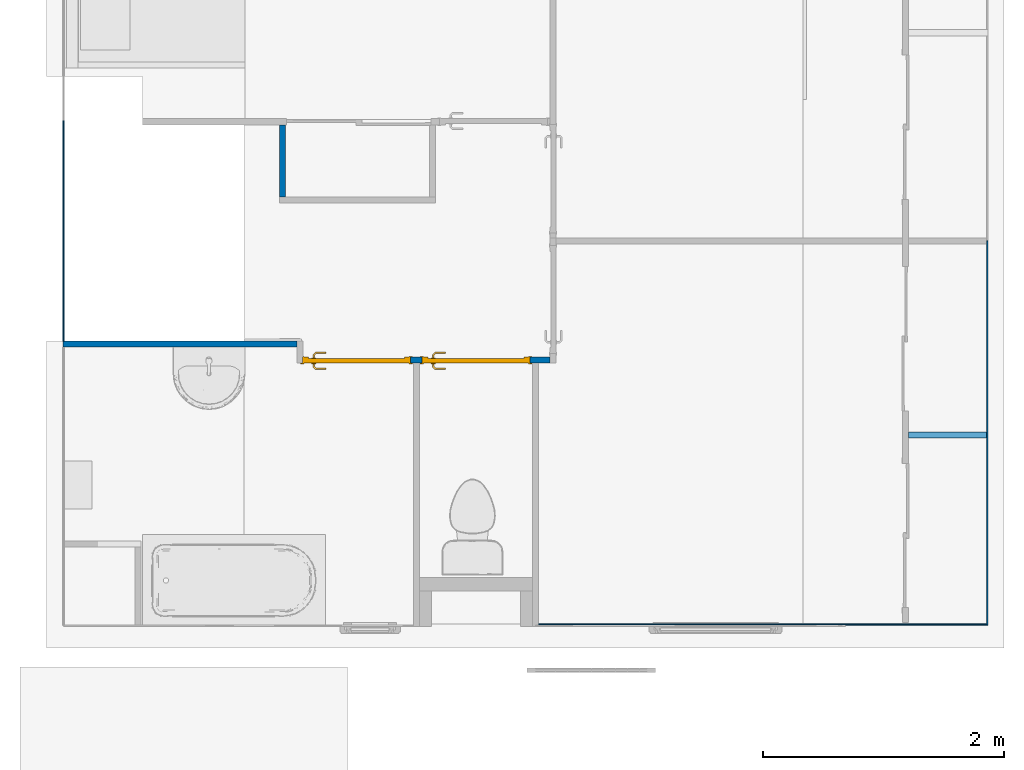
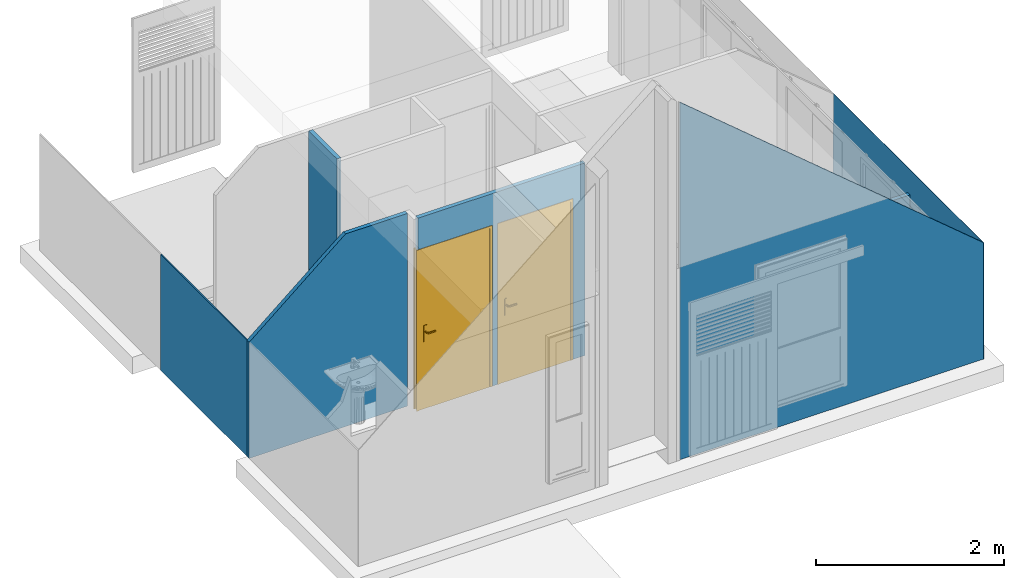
# One storey, part 2 of 11: 7 walls, 2 doors, 3 openings.
"""IFC2X3 building model written with IfcOpenShell, lengths in metres."""

import ifcopenshell
import ifcopenshell.guid

model = None  # the IFC model being written
_history = None  # IfcOwnerHistory: only IFC2X3 demands one
_inside = {}  # id of a spatial element -> (the spatial element, [elements in it])
_under = {}  # id of a project, library or spatial element -> (it, [spatial elements below it])
_declared = {}  # id of a project -> (the project, [libraries it declares])
_typed = {}  # id of a type object -> (the type object, [elements of that type])
_made_of = {}  # id of a material, layer set ... -> (it, [elements and type objects made of it])


def new_model(schema):
    """Start an empty IFC model of exactly this schema.

    Asked for "IFC4X3", IfcOpenShell would pick the latest addendum, in which some entities
    have other attributes; the version numbers below select the first issue.
    IFC2X3 requires an IfcOwnerHistory on every rooted entity: one is made here for all.
    """
    global model, _history
    if schema == "IFC4X3":
        model = ifcopenshell.file(schema_version=(4, 3, 0, 0))
    else:
        model = ifcopenshell.file(schema=schema)
    _inside.clear()
    _under.clear()
    _declared.clear()
    _typed.clear()
    _made_of.clear()
    _history = None
    if model.schema == "IFC2X3":
        org = make("IfcOrganization", Name="unknown")
        user = make(
            "IfcPersonAndOrganization",
            ThePerson=make("IfcPerson", FamilyName="unknown"),
            TheOrganization=org,
        )
        app = make(
            "IfcApplication",
            ApplicationDeveloper=org,
            Version="unknown",
            ApplicationFullName="unknown",
            ApplicationIdentifier="unknown",
        )
        _history = make(
            "IfcOwnerHistory",
            OwningUser=user,
            OwningApplication=app,
            ChangeAction="ADDED",
            CreationDate=0,
        )
    return model


def make(cls, **values):
    """One entity of the class cls with the attributes given. An attribute that is None is left unset."""
    return model.create_entity(
        cls, **{name: value for name, value in values.items() if value is not None}
    )


def entity(cls, *values):
    """Any entity or typed value of the class cls, its attributes in the order of the schema. None: left unset."""
    e = model.create_entity(cls)
    for i, value in enumerate(values):
        if value is not None:
            e[i] = value
    return e


def rooted(cls, **values):
    """An entity with a GlobalId (a new one), such as an element, a storey or a relation."""
    return make(cls, GlobalId=ifcopenshell.guid.new(), OwnerHistory=_history, **values)


def si_unit(unit_type, name, prefix=None):
    """IfcSIUnit, for example si_unit("LENGTHUNIT", "METRE", prefix="MILLI")."""
    return make("IfcSIUnit", UnitType=unit_type, Prefix=prefix, Name=name)


def converted_unit(unit_type, name, factor, base, dimensions=None, offset=None):
    """IfcConversionBasedUnit, such as the inch: factor (a typed value) times the base unit."""
    return make(
        "IfcConversionBasedUnit"
        if offset is None
        else "IfcConversionBasedUnitWithOffset",
        ConversionOffset=offset,
        Dimensions=None
        if dimensions is None
        else entity("IfcDimensionalExponents", *dimensions),
        UnitType=unit_type,
        Name=name,
        ConversionFactor=make(
            "IfcMeasureWithUnit", ValueComponent=factor, UnitComponent=base
        ),
    )


def derived_unit(unit_type, elements):
    """IfcDerivedUnit: a product of units, each with its exponent."""
    return make(
        "IfcDerivedUnit",
        Elements=[
            make("IfcDerivedUnitElement", Unit=unit, Exponent=power)
            for unit, power in elements
        ],
        UnitType=unit_type,
    )


def assignment(units):
    """IfcUnitAssignment: the units of a project."""
    return None if units is None else make("IfcUnitAssignment", Units=units)


def point(xyz):
    """IfcCartesianPoint."""
    return None if xyz is None else make("IfcCartesianPoint", Coordinates=xyz)


def direction(xyz):
    """IfcDirection."""
    return None if xyz is None else make("IfcDirection", DirectionRatios=xyz)


def frame(location, z_axis=None, x_axis=None):
    """IfcAxis2Placement3D, a coordinate frame: its origin and axes. An axis left out is left unset."""
    return make(
        "IfcAxis2Placement3D",
        Location=point(location),
        Axis=direction(z_axis),
        RefDirection=direction(x_axis),
    )


def frame_2d(location, x_axis=None):
    """IfcAxis2Placement2D, a coordinate frame in the plane: its origin and x axis."""
    return make(
        "IfcAxis2Placement2D", Location=point(location), RefDirection=direction(x_axis)
    )


def origin():
    """The frame at (0, 0, 0) with its axes left unset."""
    return frame((0.0, 0.0, 0.0))


def place(relative_to, where):
    """IfcLocalPlacement: puts the frame where relative to a parent placement (None: the world)."""
    return make(
        "IfcLocalPlacement", PlacementRelTo=relative_to, RelativePlacement=where
    )


def context(
    kind, dimensions, precision=None, world=None, true_north=None, identifier=None
):
    """IfcGeometricRepresentationContext, for example the 3D "Model" context."""
    return make(
        "IfcGeometricRepresentationContext",
        ContextIdentifier=identifier,
        ContextType=kind,
        CoordinateSpaceDimension=dimensions,
        Precision=precision,
        WorldCoordinateSystem=world,
        TrueNorth=true_north,
    )


def subcontext(parent, identifier, kind, view, scale=None):
    """IfcGeometricRepresentationSubContext, for example "Body" below "Model"."""
    return make(
        "IfcGeometricRepresentationSubContext",
        ContextIdentifier=identifier,
        ContextType=kind,
        ParentContext=parent,
        TargetScale=scale,
        TargetView=view,
    )


def project(units=None, contexts=None):
    """IfcProject with its units and contexts."""
    return rooted(
        "IfcProject",
        Name="project",
        RepresentationContexts=contexts,
        UnitsInContext=assignment(units),
    )


def spatial(cls, under=None, at=None, **own):
    """A site, building, storey or space (cls), placed at a placement, below another one or the project."""
    s = rooted(cls, ObjectPlacement=at, **own)
    if under is not None:
        _under.setdefault(under.id(), (under, []))[1].append(s)
    return s


def polyline(points):
    """IfcPolyline through the points."""
    return make("IfcPolyline", Points=[point(p) for p in points])


def profile(cls, at=None, kind="AREA", **sizes):
    """A parametric profile (cls). Its sizes go by their IFC names, for example OverallWidth=200.0."""
    return make(cls, ProfileType=kind, Position=at, **sizes)


def rectangle(**sizes):
    """IfcRectangleProfileDef."""
    return profile("IfcRectangleProfileDef", **sizes)


def extrude(swept, where, along, depth):
    """IfcExtrudedAreaSolid: the profile swept, set in the frame where, extruded along a direction by depth."""
    return make(
        "IfcExtrudedAreaSolid",
        SweptArea=swept,
        Position=where,
        ExtrudedDirection=direction(along),
        Depth=depth,
    )


def clip(a, b, op="DIFFERENCE"):
    """IfcBooleanClippingResult: the solid a cut by the half space b."""
    return make(
        "IfcBooleanClippingResult", Operator=op, FirstOperand=a, SecondOperand=b
    )


def halfspace(plane, agree):
    """IfcHalfSpaceSolid: all space on one side of the plane z = 0 of the frame plane."""
    return make(
        "IfcHalfSpaceSolid",
        BaseSurface=make("IfcPlane", Position=plane),
        AgreementFlag=agree,
    )


def bounded_halfspace(plane, agree, where, boundary):
    """IfcPolygonalBoundedHalfSpace: a half space limited to a polygon's prism."""
    return make(
        "IfcPolygonalBoundedHalfSpace",
        BaseSurface=make("IfcPlane", Position=plane),
        AgreementFlag=agree,
        Position=where,
        PolygonalBoundary=boundary,
    )


def faces_of(points, faces, orient=None, outer=None):
    """IfcFace entities. A face is a list of loops; a loop is a list of indices into points, from 0.

    orient and outer hold one flag for each loop. By default every Orientation is true, the
    first loop of a face is its IfcFaceOuterBound and the others are IfcFaceBound.
    """
    made = []
    for i, loops in enumerate(faces):
        bounds = []
        for j, loop in enumerate(loops):
            is_outer = j == 0 if outer is None else outer[i][j]
            bounds.append(
                make(
                    "IfcFaceOuterBound" if is_outer else "IfcFaceBound",
                    Bound=make("IfcPolyLoop", Polygon=[points[k] for k in loop]),
                    Orientation=True if orient is None else orient[i][j],
                )
            )
        made.append(make("IfcFace", Bounds=bounds))
    return made


def faceted_brep(points, faces, orient=None, outer=None, voids=None):
    """IfcFacetedBrep: a solid bounded by flat faces; with voids (closed shells), ...WithVoids."""
    shared = [point(p) for p in points]
    hull = make("IfcClosedShell", CfsFaces=faces_of(shared, faces, orient, outer))
    if voids is None:
        return make("IfcFacetedBrep", Outer=hull)
    return make(
        "IfcFacetedBrepWithVoids",
        Outer=hull,
        Voids=[
            make(cls, CfsFaces=faces_of(shared, fs, o, b)) for cls, fs, o, b in voids
        ],
    )


def shape(context_of_items, identifier, shape_type, items):
    """IfcShapeRepresentation: the items that make up one representation, for example the "Body"."""
    return make(
        "IfcShapeRepresentation",
        ContextOfItems=context_of_items,
        RepresentationIdentifier=identifier,
        RepresentationType=shape_type,
        Items=items,
    )


def source(mapping_origin, context_of_items, identifier, shape_type, items):
    """IfcRepresentationMap: a shape defined once, which mapped items show again and again."""
    return make(
        "IfcRepresentationMap",
        MappingOrigin=mapping_origin,
        MappedRepresentation=shape(context_of_items, identifier, shape_type, items),
    )


def transform(
    local_origin,
    x_axis=None,
    y_axis=None,
    z_axis=None,
    scale=None,
    scale2=None,
    scale3=None,
    uniform=True,
):
    """IfcCartesianTransformationOperator3D, or its non-uniform kind. x_axis, y_axis, z_axis: its Axis1, 2, 3."""
    if uniform:
        return make(
            "IfcCartesianTransformationOperator3D",
            Axis1=direction(x_axis),
            Axis2=direction(y_axis),
            LocalOrigin=point(local_origin),
            Scale=scale,
            Axis3=direction(z_axis),
        )
    return make(
        "IfcCartesianTransformationOperator3DnonUniform",
        Axis1=direction(x_axis),
        Axis2=direction(y_axis),
        LocalOrigin=point(local_origin),
        Scale=scale,
        Axis3=direction(z_axis),
        Scale2=scale2,
        Scale3=scale3,
    )


def mapped(mapping_source, mapping_target):
    """IfcMappedItem: shows the shape of a source again, moved by a transform."""
    return make(
        "IfcMappedItem", MappingSource=mapping_source, MappingTarget=mapping_target
    )


def material(Name=None, Category=None):
    """IfcMaterial."""
    return make("IfcMaterial", Name=Name, Category=Category)


def material_list(materials):
    """IfcMaterialList."""
    return make("IfcMaterialList", Materials=materials)


def layer(
    of_material, thickness, ventilated=None, Name=None, Category=None, Priority=None
):
    """IfcMaterialLayer: one layer of a wall or slab, of a material (None: an air gap)."""
    return make(
        "IfcMaterialLayer",
        Material=of_material,
        LayerThickness=thickness,
        IsVentilated=ventilated,
        Name=Name,
        Category=Category,
        Priority=Priority,
    )


def layer_set(layers, Name=None):
    """IfcMaterialLayerSet."""
    return make("IfcMaterialLayerSet", MaterialLayers=layers, LayerSetName=Name)


def layer_usage(for_layer_set, set_direction, sense, offset, extent=None):
    """IfcMaterialLayerSetUsage: how a layer set lies in its element."""
    return make(
        "IfcMaterialLayerSetUsage",
        ForLayerSet=for_layer_set,
        LayerSetDirection=set_direction,
        DirectionSense=sense,
        OffsetFromReferenceLine=offset,
        ReferenceExtent=extent,
    )


def made_of(thing, what):
    """Note that an element or type object is made of a material, layer set ...; save() writes the relation."""
    if what is not None:
        _made_of.setdefault(what.id(), (what, []))[1].append(thing)
    return thing


def type_object(cls, material=None, **own):
    """A type object (cls), such as IfcWallType, which elements share."""
    return made_of(rooted(cls, **own), material)


def type_shapes(of_type, sources):
    """Give a type object the sources (RepresentationMaps) that its elements show as mapped items."""
    of_type.RepresentationMaps = sources


def element(
    cls,
    number,
    at=None,
    inside=None,
    cuts=None,
    type_object=None,
    material=None,
    context=None,
    identifier="Body",
    shape_type=None,
    held_by="IfcProductDefinitionShape",
    body=None,
    shapes=None,
    **own,
):
    """One element of the class cls, such as IfcWall. Its Tag is "e" and its number.

    at: its placement. inside: the storey or other place that contains it. cuts: it is an
    opening in that element (IfcRelVoidsElement). A single representation is given by context,
    identifier, shape_type and body (its items); several are given by shapes. held_by: the class
    of the entity that holds the representations. save() writes the other relations.
    """
    e = rooted(cls, Tag="e%d" % number, ObjectPlacement=at, **own)
    if body is not None:
        shapes = [shape(context, identifier, shape_type, body)]
    if shapes is not None:
        e.Representation = make(held_by, Representations=shapes)
    if inside is not None:
        _inside.setdefault(inside.id(), (inside, []))[1].append(e)
    if cuts is not None:
        rooted(
            "IfcRelVoidsElement", RelatingBuildingElement=cuts, RelatedOpeningElement=e
        )
    if type_object is not None:
        _typed.setdefault(type_object.id(), (type_object, []))[1].append(e)
    return made_of(e, material)


def fill(opening, filler):
    """IfcRelFillsElement: the door or window that sits in an opening."""
    return rooted(
        "IfcRelFillsElement",
        RelatingOpeningElement=opening,
        RelatedBuildingElement=filler,
    )


def aggregate(whole, parts):
    """IfcRelAggregates: a whole, such as a stair, and the parts it consists of."""
    return rooted("IfcRelAggregates", RelatingObject=whole, RelatedObjects=parts)


def save(model, path):
    """Write the relations noted so far, then the file.

    IfcRelAggregates (storeys below a building ...), IfcRelContainedInSpatialStructure (elements
    in a storey), IfcRelDefinesByType, IfcRelAssociatesMaterial and IfcRelDeclares: one each for
    every whole, place, type object, material and project.
    """
    for whole, parts in _under.values():
        aggregate(whole, parts)
    for where, things in _inside.values():
        rooted(
            "IfcRelContainedInSpatialStructure",
            RelatedElements=things,
            RelatingStructure=where,
        )
    for kind, things in _typed.values():
        rooted("IfcRelDefinesByType", RelatedObjects=things, RelatingType=kind)
    for what, things in _made_of.values():
        rooted("IfcRelAssociatesMaterial", RelatedObjects=things, RelatingMaterial=what)
    for by, libraries in _declared.values():
        rooted("IfcRelDeclares", RelatingContext=by, RelatedDefinitions=libraries)
    model.write(path)


model = new_model("IFC2X3")

# Units and contexts
model_context = context("Model", 3, precision=1e-05, world=origin(), true_north=direction((6.12303176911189e-17, 1.0)))
body_context = subcontext(model_context, "Body", "Model", "MODEL_VIEW")
ifc_project = project(units=[si_unit("LENGTHUNIT", "METRE"), si_unit("AREAUNIT", "SQUARE_METRE"), si_unit("VOLUMEUNIT", "CUBIC_METRE"), converted_unit("PLANEANGLEUNIT", "DEGREE", entity("IfcRatioMeasure", 0.0174532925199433), si_unit("PLANEANGLEUNIT", "RADIAN"), dimensions=[0, 0, 0, 0, 0, 0, 0]), si_unit("MASSUNIT", "GRAM", prefix="KILO"), derived_unit("MASSDENSITYUNIT", [(si_unit("MASSUNIT", "GRAM", prefix="KILO"), 1), (si_unit("LENGTHUNIT", "METRE"), -3)]), derived_unit("MOMENTOFINERTIAUNIT", [(si_unit("LENGTHUNIT", "METRE"), 4)]), si_unit("TIMEUNIT", "SECOND"), si_unit("FREQUENCYUNIT", "HERTZ"), si_unit("THERMODYNAMICTEMPERATUREUNIT", "DEGREE_CELSIUS"), derived_unit("THERMALTRANSMITTANCEUNIT", [(si_unit("MASSUNIT", "GRAM", prefix="KILO"), 1), (si_unit("THERMODYNAMICTEMPERATUREUNIT", "KELVIN"), -1), (si_unit("TIMEUNIT", "SECOND"), -3)]), derived_unit("VOLUMETRICFLOWRATEUNIT", [(si_unit("LENGTHUNIT", "METRE"), 3), (si_unit("TIMEUNIT", "SECOND"), -1)]), si_unit("ELECTRICCURRENTUNIT", "AMPERE"), si_unit("ELECTRICVOLTAGEUNIT", "VOLT"), si_unit("POWERUNIT", "WATT"), si_unit("FORCEUNIT", "NEWTON", prefix="KILO"), si_unit("ILLUMINANCEUNIT", "LUX"), si_unit("LUMINOUSFLUXUNIT", "LUMEN"), si_unit("LUMINOUSINTENSITYUNIT", "CANDELA"), derived_unit("USERDEFINED", [(si_unit("MASSUNIT", "GRAM", prefix="KILO"), -1), (si_unit("LENGTHUNIT", "METRE"), -2), (si_unit("TIMEUNIT", "SECOND"), 3), (si_unit("LUMINOUSFLUXUNIT", "LUMEN"), 1)]), derived_unit("LINEARVELOCITYUNIT", [(si_unit("LENGTHUNIT", "METRE"), 1), (si_unit("TIMEUNIT", "SECOND"), -1)]), si_unit("PRESSUREUNIT", "PASCAL"), derived_unit("USERDEFINED", [(si_unit("LENGTHUNIT", "METRE"), -2), (si_unit("MASSUNIT", "GRAM", prefix="KILO"), 1), (si_unit("TIMEUNIT", "SECOND"), -2)]), derived_unit("LINEARFORCEUNIT", [(si_unit("MASSUNIT", "GRAM", prefix="KILO"), 1), (si_unit("LENGTHUNIT", "METRE"), 1), (si_unit("TIMEUNIT", "SECOND"), -2), (si_unit("LENGTHUNIT", "METRE"), -1)]), derived_unit("PLANARFORCEUNIT", [(si_unit("MASSUNIT", "GRAM", prefix="KILO"), 1), (si_unit("LENGTHUNIT", "METRE"), 1), (si_unit("TIMEUNIT", "SECOND"), -2), (si_unit("LENGTHUNIT", "METRE"), -2)])], contexts=[model_context])

# Site, building, storey
site_placement = place(None, origin())
site = spatial("IfcSite", under=ifc_project, at=site_placement, Name="Surface", CompositionType="ELEMENT")
building_placement = place(site_placement, origin())
building = spatial("IfcBuilding", under=site, at=building_placement, CompositionType="ELEMENT")
storey_placement = place(building_placement, frame((0.0, 0.0, 2.72)))
storey = spatial("IfcBuildingStorey", under=building, at=storey_placement, Name="02 ETG", CompositionType="ELEMENT", Elevation=2.72)

# Wall
ifc_material_1 = material(Name="Mur par défaut")
ifc_layer_1 = layer(ifc_material_1, 0.05)
ifc_layer_set_1 = layer_set([ifc_layer_1], Name="Mur de base:Int. Plâtre 50 mm")
ifc_layer_usage_1 = layer_usage(ifc_layer_set_1, "AXIS2", "NEGATIVE", 0.025)
wall_type_1 = type_object("IfcWallType", Name="Mur de base:Int. Plâtre 50 mm", PredefinedType="STANDARD", material=ifc_layer_set_1)
wall_1_placement = place(storey_placement, frame((12.7665615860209, -1.74596095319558, 0.0)))
element("IfcWallStandardCase", 1, at=wall_1_placement, inside=storey, type_object=wall_type_1, material=ifc_layer_usage_1, Name="Mur de base:Int. Plâtre 50 mm", ObjectType="Mur de base:Int. Plâtre 50 mm", context=body_context, shape_type="SweptSolid", body=[
    extrude(rectangle(XDim=0.659999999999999, YDim=0.05, at=frame_2d((0.33, -5.72458747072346e-17), x_axis=(-1.0, 0.0))), origin(), (0.0, 0.0, 1.0), 1.19),
])

# Wall, opening
ifc_layer_2 = layer(ifc_material_1, 0.05)
ifc_layer_set_2 = layer_set([ifc_layer_2], Name="Mur de base:cloison séche - B.A10")
ifc_layer_usage_2 = layer_usage(ifc_layer_set_2, "AXIS2", "NEGATIVE", 0.025)
wall_type_2 = type_object("IfcWallType", Name="Mur de base:cloison séche - B.A10", PredefinedType="STANDARD", material=ifc_layer_set_2)
wall_2_placement = place(storey_placement, frame((7.56156158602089, 0.234039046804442, 0.0), z_axis=(0.0, 0.0, 1.0), x_axis=(0.0, 1.0, 0.0)))
wall_2 = element("IfcWallStandardCase", 2, at=wall_2_placement, inside=storey, type_object=wall_type_2, material=ifc_layer_usage_2, Name="Mur de base:cloison séche - B.A10", ObjectType="Mur de base:cloison séche - B.A10", context=body_context, shape_type="Clipping", body=[
    clip(extrude(rectangle(XDim=0.6, YDim=0.0499999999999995, at=frame_2d((0.3, -7.80625564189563e-17), x_axis=(-1.0, 0.0))), origin(), (0.0, 0.0, 1.0), 2.5), bounded_halfspace(frame((0.0, -0.0249999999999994, 2.5), z_axis=(0.0, 0.0, -1.0), x_axis=(0.0, -1.0, 0.0)), True, frame((0.0, -0.0249999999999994, 2.5)), polyline([(0.0, 0.0), (0.6, 0.0), (0.6, 0.0499999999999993), (0.0, 0.0499999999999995), (0.0, 0.0)]))),
])
opening_1_placement = place(wall_2_placement, origin())
element("IfcOpeningElement", 3, at=opening_1_placement, cuts=wall_2, Name="Mur de base:cloison séche - B.A10", ObjectType="Opening", context=body_context, shape_type="SweptSolid", body=[
    extrude(rectangle(XDim=1.97999999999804, YDim=0.05, at=frame_2d((0.0, 0.0), x_axis=(0.0, 1.0))), frame((0.624999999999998, -1.235, 0.989999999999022), z_axis=(0.0, 1.0, 0.0), x_axis=(-1.0, 0.0, 0.0)), (0.0, 0.0, 1.0), 1.2),
])

# Wall
ifc_layer_usage_3 = layer_usage(ifc_layer_set_2, "AXIS2", "NEGATIVE", 0.025)
wall_3_placement = place(storey_placement, frame((7.68406158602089, -0.990960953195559, 0.0), z_axis=(0.0, 0.0, 1.0), x_axis=(-1.0, 0.0, 0.0)))
element("IfcWallStandardCase", 4, at=wall_3_placement, inside=storey, type_object=wall_type_2, material=ifc_layer_usage_3, Name="Mur de base:cloison séche - B.A10", ObjectType="Mur de base:cloison séche - B.A10", context=body_context, shape_type="Clipping", body=[
    clip(clip(extrude(rectangle(XDim=1.9475, YDim=0.05, at=frame_2d((0.973750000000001, 2.77555756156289e-17), x_axis=(-1.0, 0.0))), origin(), (0.0, 0.0, 1.0), 2.5), halfspace(frame((0.0, -0.025, 2.5), z_axis=(0.0, 0.0, 1.0), x_axis=(0.0, 1.0, 0.0)), False)), halfspace(frame((0.763560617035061, -0.025, 2.5), z_axis=(0.642787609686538, 0.0, 0.766044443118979), x_axis=(0.0, 1.0, 0.0)), False)),
])

# Wall, openings, doors
ifc_layer_usage_4 = layer_usage(ifc_layer_set_2, "AXIS2", "NEGATIVE", 0.025)
wall_4_placement = place(storey_placement, frame((7.73406158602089, -1.12346095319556, 0.0)))
wall_4 = element("IfcWallStandardCase", 5, at=wall_4_placement, inside=storey, type_object=wall_type_2, material=ifc_layer_usage_4, Name="Mur de base:cloison séche - B.A10", ObjectType="Mur de base:cloison séche - B.A10", context=body_context, shape_type="Clipping", body=[
    clip(extrude(rectangle(XDim=2.0525, YDim=0.05, at=frame_2d((1.02625, 8.67361737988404e-18), x_axis=(-1.0, 0.0))), origin(), (0.0, 0.0, 1.0), 2.5), bounded_halfspace(frame((2.0525, 0.0, 2.5), z_axis=(0.0, 0.0, -1.0), x_axis=(1.0, 0.0, 0.0)), True, frame((2.0525, 0.0, 2.5)), polyline([(0.0, 0.0), (0.0, 0.0249999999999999), (-2.0525, 0.0249999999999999), (-2.0525, 0.0), (0.0, 0.0)]))),
])
opening_2_placement = place(wall_4_placement, frame((0.893750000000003, 0.0249999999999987, 0.0)))
opening_2 = element("IfcOpeningElement", 6, at=opening_2_placement, cuts=wall_4, Name="Int. Simple:Porte pleine parement lisse bois prépeinte:1", ObjectType="Opening", context=body_context, shape_type="SweptSolid", body=[
    extrude(rectangle(XDim=2.075, YDim=0.9, at=frame_2d((1.0375, 0.45), x_axis=(1.0, 0.0))), frame((0.0, 0.0, 0.0), z_axis=(0.0, -1.0, 0.0), x_axis=(0.0, 0.0, 1.0)), (0.0, 0.0, 1.0), 0.05),
])
opening_3_placement = place(wall_4_placement, frame((1.8875, 0.0249999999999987, 0.0)))
opening_3 = element("IfcOpeningElement", 7, at=opening_3_placement, cuts=wall_4, Name="Int. Simple:Porte pleine parement lisse bois prépeinte:1", ObjectType="Opening", context=body_context, shape_type="SweptSolid", body=[
    extrude(rectangle(XDim=2.075, YDim=0.9, at=frame_2d((1.0375, 0.45), x_axis=(1.0, 0.0))), frame((0.0, 0.0, 0.0), z_axis=(0.0, -1.0, 0.0), x_axis=(0.0, 0.0, 1.0)), (0.0, 0.0, 1.0), 0.05),
])
ifc_material_2 = material(Name="Finition Peinture - Blanc satiné")
ifc_material_3 = material(Name="Bois - Panneau de porte")
ifc_material_4 = material(Name="Bois - Cadre de porte")
ifc_material_list_1 = material_list([ifc_material_2, ifc_material_3, ifc_material_4])
ifc_material_list_2 = material_list([ifc_material_2, ifc_material_4, ifc_material_3, ifc_material_4])
door_style = type_object("IfcDoorStyle", Name="Int. Simple:Porte pleine parement lisse bois prépeinte", ConstructionType="NOTDEFINED", OperationType="NOTDEFINED", ParameterTakesPrecedence=False, Sizeable=False, material=ifc_material_list_2)
shared_shape = source(origin(), body_context, "Body", "Brep", [
    faceted_brep([(0.105352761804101, -0.00500000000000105, 0.866003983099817), (0.115, -0.00500000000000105, 0.870000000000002), (0.114999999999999, -0.00500000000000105, 1.08), (0.1053527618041, -0.00500000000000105, 1.08399601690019), (0.094999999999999, -0.00500000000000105, 1.08535898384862), (0.0846472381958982, -0.00500000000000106, 1.08399601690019), (0.0749999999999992, -0.00500000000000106, 1.08), (0.0750000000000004, -0.00500000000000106, 0.870000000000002), (0.0846472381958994, -0.00500000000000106, 0.866003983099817), (0.0950000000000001, -0.00500000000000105, 0.86464101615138), (0.1053527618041, 0.0, 1.08399601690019), (0.114999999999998, 0.0, 1.08), (0.115, 0.0, 0.870000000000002), (0.105352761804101, 0.0, 0.866003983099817), (0.0950000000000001, 0.0, 0.86464101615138), (0.0846472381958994, 0.0, 0.866003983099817), (0.0749999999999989, 0.0, 0.870000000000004), (0.0749999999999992, 0.0, 1.08), (0.0846472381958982, 0.0, 1.08399601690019), (0.094999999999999, 0.0, 1.08535898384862)], [[[0, 1, 2, 3, 4, 5, 6, 7, 8, 9]], [[10, 11, 12, 13, 14, 15, 16, 17, 18, 19]], [[16, 15, 8, 7]], [[8, 15, 14, 9]], [[14, 13, 0, 9]], [[13, 12, 1, 0]], [[2, 1, 12, 11]], [[11, 10, 3, 2]], [[3, 10, 19, 4]], [[19, 18, 5, 4]], [[18, 17, 6, 5]], [[7, 6, 17, 16]]]),
    faceted_brep([(0.105352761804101, 0.0399999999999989, 0.866003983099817), (0.115, 0.0399999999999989, 0.870000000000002), (0.114999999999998, 0.0399999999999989, 1.08), (0.105352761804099, 0.0399999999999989, 1.08399601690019), (0.0949999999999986, 0.0399999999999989, 1.08535898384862), (0.084647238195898, 0.0399999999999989, 1.08399601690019), (0.0749999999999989, 0.0399999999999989, 1.08), (0.0750000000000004, 0.0399999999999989, 0.870000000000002), (0.0846472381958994, 0.0399999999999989, 0.866003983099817), (0.0950000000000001, 0.0399999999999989, 0.86464101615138), (0.105352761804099, 0.0449999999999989, 1.08399601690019), (0.114999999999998, 0.0449999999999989, 1.08), (0.115, 0.0449999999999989, 0.870000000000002), (0.105352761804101, 0.0449999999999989, 0.866003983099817), (0.0950000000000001, 0.0449999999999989, 0.86464101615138), (0.0846472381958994, 0.0449999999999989, 0.866003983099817), (0.0749999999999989, 0.0449999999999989, 0.870000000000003), (0.0749999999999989, 0.0449999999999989, 1.08), (0.084647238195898, 0.0449999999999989, 1.08399601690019), (0.0949999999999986, 0.0449999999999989, 1.08535898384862)], [[[0, 1, 2, 3, 4, 5, 6, 7, 8, 9]], [[10, 11, 12, 13, 14, 15, 16, 17, 18, 19]], [[11, 10, 3, 2]], [[3, 10, 19, 4]], [[19, 18, 5, 4]], [[18, 17, 6, 5]], [[7, 6, 17, 16]], [[16, 15, 8, 7]], [[8, 15, 14, 9]], [[14, 13, 0, 9]], [[13, 12, 1, 0]], [[2, 1, 12, 11]]]),
    faceted_brep([(0.0929747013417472, -0.00500000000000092, 1.00778044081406), (0.0970252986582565, -0.0050000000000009, 1.00778044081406), (0.101000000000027, -0.00500000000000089, 1.00699999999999), (0.101000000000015, -0.00500000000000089, 0.993000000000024), (0.0970252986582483, -0.0050000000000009, 0.992219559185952), (0.0929747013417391, -0.00500000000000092, 0.99221955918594), (0.0889999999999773, -0.00500000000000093, 0.992999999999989), (0.0889999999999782, -0.00500000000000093, 1.007), (0.0889999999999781, -0.0326509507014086, 1.007), (0.092974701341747, -0.0310045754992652, 1.00778044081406), (0.10902358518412, -0.0470534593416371, 1.00778044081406), (0.110701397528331, -0.0430028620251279, 1.00778044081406), (0.0970252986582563, -0.0293267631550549, 1.00778044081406), (0.101000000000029, -0.0276803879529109, 1.007), (0.101000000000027, -0.0276803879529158, 0.993000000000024), (0.0970252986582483, -0.0293267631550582, 0.992219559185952), (0.110701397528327, -0.0430028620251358, 0.992219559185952), (0.109023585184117, -0.047053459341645, 0.99221955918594), (0.0929747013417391, -0.0310045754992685, 0.99221955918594), (0.0889999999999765, -0.0326509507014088, 0.992999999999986), (0.107377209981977, -0.0510281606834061, 1.007), (0.112347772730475, -0.0390281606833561, 1.007), (0.112347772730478, -0.0390281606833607, 0.993000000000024), (0.107377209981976, -0.0510281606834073, 0.992999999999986), (0.195018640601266, -0.0510281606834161, 0.992999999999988), (0.195018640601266, -0.0470534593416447, 0.99221955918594), (0.195018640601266, -0.0430028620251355, 0.992219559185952), (0.195018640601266, -0.039028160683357, 0.993000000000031), (0.195018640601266, -0.0390281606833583, 1.007), (0.195018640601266, -0.0430028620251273, 1.00778044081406), (0.195018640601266, -0.0470534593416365, 1.00778044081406), (0.195018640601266, -0.0510281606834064, 1.00699999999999), (0.147307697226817, -0.0510281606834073, 1.007), (0.152860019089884, -0.045028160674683, 1.0078786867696), (0.15368320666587, -0.039028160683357, 1.007), (0.153683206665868, -0.0390281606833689, 0.993000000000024), (0.152860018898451, -0.0450281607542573, 0.992121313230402), (0.147307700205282, -0.0510281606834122, 0.992999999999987)], [[[0, 1, 2, 3, 4, 5, 6, 7]], [[8, 9, 0, 7]], [[9, 10, 11, 12, 1, 0]], [[12, 13, 2, 1]], [[3, 2, 13, 14]], [[14, 15, 4, 3]], [[15, 16, 17, 18, 5, 4]], [[18, 19, 6, 5]], [[7, 6, 19, 8]], [[20, 10, 9, 8]], [[11, 21, 13, 12]], [[14, 13, 21, 22]], [[22, 16, 15, 14]], [[17, 23, 19, 18]], [[8, 19, 23, 20]], [[24, 25, 26, 27, 28, 29, 30, 31]], [[32, 30, 33]], [[31, 30, 32]], [[10, 20, 32]], [[33, 34, 11]], [[21, 11, 34]], [[34, 29, 28]], [[30, 29, 33]], [[29, 34, 33]], [[10, 32, 33]], [[10, 33, 11]], [[22, 21, 34, 28, 27, 35]], [[35, 26, 36]], [[37, 36, 25]], [[22, 35, 16]], [[35, 27, 26]], [[24, 37, 25]], [[23, 17, 37]], [[37, 17, 36]], [[17, 16, 36]], [[16, 35, 36]], [[25, 36, 26]], [[20, 23, 37, 24, 31, 32]]]),
    faceted_brep([(0.0929747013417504, 0.0449999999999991, 1.00778044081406), (0.0889999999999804, 0.044999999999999, 1.007), (0.0889999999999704, 0.044999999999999, 0.992999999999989), (0.0929747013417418, 0.0449999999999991, 0.99221955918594), (0.0970252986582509, 0.0449999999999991, 0.992219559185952), (0.10100000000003, 0.0449999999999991, 0.993000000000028), (0.101000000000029, 0.0449999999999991, 1.007), (0.0970252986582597, 0.0449999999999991, 1.00778044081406), (0.10100000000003, 0.067485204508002, 0.993000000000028), (0.10100000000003, 0.0674852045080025, 1.007), (0.0970252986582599, 0.0691315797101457, 1.00778044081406), (0.110838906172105, 0.0829451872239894, 1.00778044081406), (0.109161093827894, 0.0869957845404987, 1.00778044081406), (0.0929747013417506, 0.070809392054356, 1.00778044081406), (0.0889999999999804, 0.0724557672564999, 1.007), (0.0889999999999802, 0.072455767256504, 0.992999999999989), (0.0929747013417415, 0.0708093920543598, 0.99221955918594), (0.109161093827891, 0.0869957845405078, 0.99221955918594), (0.110838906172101, 0.0829451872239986, 0.992219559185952), (0.0970252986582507, 0.0691315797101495, 0.992219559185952), (0.112485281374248, 0.0789704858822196, 0.993000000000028), (0.112485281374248, 0.0789704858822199, 1.007), (0.107514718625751, 0.0909704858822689, 1.007), (0.107514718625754, 0.090970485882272, 0.992999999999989), (0.195045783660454, 0.0789704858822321, 0.993000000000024), (0.195045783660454, 0.0829451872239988, 0.992219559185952), (0.195045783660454, 0.086995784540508, 0.99221955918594), (0.195045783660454, 0.0909704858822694, 0.992999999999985), (0.195045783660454, 0.0909704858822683, 1.007), (0.195045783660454, 0.0869957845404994, 1.00778044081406), (0.195045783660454, 0.0829451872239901, 1.00778044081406), (0.195045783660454, 0.0789704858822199, 1.007), (0.153765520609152, 0.0789704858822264, 0.993000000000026), (0.153765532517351, 0.0789704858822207, 1.007), (0.152942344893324, 0.0849704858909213, 1.0078786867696), (0.147445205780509, 0.0909704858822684, 1.007), (0.147445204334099, 0.0909704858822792, 0.992999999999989), (0.152942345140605, 0.0849704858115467, 0.992121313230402)], [[[0, 1, 2, 3, 4, 5, 6, 7]], [[6, 5, 8, 9]], [[9, 10, 7, 6]], [[10, 11, 12, 13, 0, 7]], [[13, 14, 1, 0]], [[2, 1, 14, 15]], [[15, 16, 3, 2]], [[16, 17, 18, 19, 4, 3]], [[19, 8, 5, 4]], [[9, 8, 20, 21]], [[21, 11, 10, 9]], [[12, 22, 14, 13]], [[15, 14, 22, 23]], [[23, 17, 16, 15]], [[18, 20, 8, 19]], [[24, 25, 26, 27, 28, 29, 30, 31]], [[21, 20, 32, 24, 31, 33]], [[33, 30, 34]], [[35, 34, 29]], [[21, 33, 11]], [[33, 31, 30]], [[28, 35, 29]], [[22, 12, 35]], [[35, 12, 34]], [[12, 11, 34]], [[11, 33, 34]], [[29, 34, 30]], [[22, 35, 28, 27, 36, 23]], [[36, 26, 37]], [[27, 26, 36]], [[17, 23, 36]], [[37, 32, 18]], [[20, 18, 32]], [[32, 25, 24]], [[26, 25, 37]], [[25, 32, 37]], [[17, 36, 37]], [[17, 37, 18]]]),
    faceted_brep([(0.034999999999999, 0.04, 2.04), (0.865, 0.04, 2.04), (0.864999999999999, 0.04, 0.0), (0.034999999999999, 0.04, 0.0), (0.034999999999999, 0.0, 2.04), (0.034999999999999, 0.0, 0.0), (0.864999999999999, 0.0, 0.0), (0.865, 0.0, 2.04)], [[[0, 1, 2, 3]], [[4, 5, 6, 7]], [[1, 0, 4, 7]], [[2, 1, 7, 6]], [[3, 2, 6, 5]], [[0, 3, 5, 4]]]),
    faceted_brep([(0.0, 0.0, 0.0), (0.0, 0.050000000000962, 0.0), (0.0499999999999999, 0.050000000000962, 0.0), (0.0499999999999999, 0.040000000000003, 0.0), (0.0349999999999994, 0.040000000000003, 0.0), (0.0349999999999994, 0.0, 0.0), (0.0, 0.0, 2.07500000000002), (0.0, 0.050000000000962, 2.07500000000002), (0.900000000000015, 0.050000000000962, 2.07500000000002), (0.900000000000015, 0.050000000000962, 0.0), (0.85, 0.050000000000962, 0.0), (0.85, 0.050000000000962, 2.025), (0.05, 0.050000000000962, 2.025), (0.05, 0.040000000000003, 2.025), (0.85, 0.040000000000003, 2.025), (0.85, 0.040000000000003, 0.0), (0.865, 0.040000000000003, 0.0), (0.865000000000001, 0.040000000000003, 2.04), (0.0349999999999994, 0.040000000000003, 2.04), (0.0349999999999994, 0.0, 2.04), (0.865, 0.0, 2.04), (0.865, 0.0, 0.0), (0.900000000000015, 0.0, 0.0), (0.900000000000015, 0.0, 2.07500000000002)], [[[0, 1, 2, 3, 4, 5]], [[1, 0, 6, 7]], [[2, 1, 7, 8, 9, 10, 11, 12]], [[3, 2, 12, 13]], [[4, 3, 13, 14, 15, 16, 17, 18]], [[5, 4, 18, 19]], [[0, 5, 19, 20, 21, 22, 23, 6]], [[8, 23, 22, 9]], [[22, 21, 16, 15, 10, 9]], [[14, 11, 10, 15]], [[20, 17, 16, 21]], [[7, 6, 23, 8]], [[13, 12, 11, 14]], [[19, 18, 17, 20]]]),
    faceted_brep([(0.0149999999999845, 0.050000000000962, 0.0), (-0.0150000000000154, 0.050000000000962, 0.0), (-0.0150000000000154, 0.055000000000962, 0.0), (0.0149999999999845, 0.055000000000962, 0.0), (0.0149999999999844, 0.050000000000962, 2.06000000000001), (0.884999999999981, 0.050000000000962, 2.06000000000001), (0.88499999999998, 0.050000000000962, 0.0), (0.91499999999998, 0.050000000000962, 0.0), (0.91499999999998, 0.050000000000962, 2.09000000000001), (-0.0150000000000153, 0.050000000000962, 2.09000000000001), (-0.0150000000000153, 0.055000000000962, 2.09000000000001), (0.91499999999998, 0.055000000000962, 2.09000000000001), (0.91499999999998, 0.055000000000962, 0.0), (0.88499999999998, 0.055000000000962, 0.0), (0.88499999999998, 0.055000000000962, 2.06000000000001), (0.0149999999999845, 0.055000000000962, 2.06000000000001)], [[[0, 1, 2, 3]], [[1, 0, 4, 5, 6, 7, 8, 9]], [[2, 1, 9, 10]], [[3, 2, 10, 11, 12, 13, 14, 15]], [[0, 3, 15, 4]], [[6, 13, 12, 7]], [[5, 14, 13, 6]], [[11, 8, 7, 12]], [[10, 9, 8, 11]], [[4, 15, 14, 5]]]),
    faceted_brep([(-0.0150000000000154, -0.005, 0.0), (0.0149999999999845, -0.005, 0.0), (0.0149999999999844, -0.005, 2.06000000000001), (0.884999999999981, -0.005, 2.06000000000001), (0.88499999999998, -0.005, 0.0), (0.91499999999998, -0.005, 0.0), (0.91499999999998, -0.005, 2.09000000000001), (-0.0150000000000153, -0.005, 2.09000000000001), (-0.0150000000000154, 0.0, 0.0), (-0.0150000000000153, 0.0, 2.09000000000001), (0.0149999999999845, 0.0, 0.0), (0.91499999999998, 0.0, 2.09000000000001), (0.91499999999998, 0.0, 0.0), (0.88499999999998, 0.0, 0.0), (0.88499999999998, 0.0, 2.06000000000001), (0.0149999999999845, 0.0, 2.06000000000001)], [[[0, 1, 2, 3, 4, 5, 6, 7]], [[8, 0, 7, 9]], [[10, 8, 9, 11, 12, 13, 14, 15]], [[1, 10, 15, 2]], [[3, 14, 13, 4]], [[11, 6, 5, 12]], [[9, 7, 6, 11]], [[2, 15, 14, 3]], [[4, 13, 12, 5]], [[1, 0, 8, 10]]]),
])
type_shapes(door_style, [shared_shape])
door_1_placement = place(opening_2_placement, frame((-0.900000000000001, -0.0499999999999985, 0.0)))
door_1 = element("IfcDoor", 8, at=door_1_placement, inside=storey, type_object=door_style, material=ifc_material_list_1, Name="Int. Simple:Porte pleine parement lisse bois prépeinte", ObjectType="Int. Simple:Porte pleine parement lisse bois prépeinte", OverallHeight=2.075, OverallWidth=0.9, context=body_context, shape_type="MappedRepresentation", body=[
    mapped(shared_shape, transform((0.0, 0.0, 0.0), scale=1.0)),
])
fill(opening_2, door_1)
ifc_material_list_3 = material_list([ifc_material_2, ifc_material_3, ifc_material_4])
door_2_placement = place(opening_3_placement, frame((-0.9, -0.0500000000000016, 0.0)))
door_2 = element("IfcDoor", 9, at=door_2_placement, inside=storey, type_object=door_style, material=ifc_material_list_3, Name="Int. Simple:Porte pleine parement lisse bois prépeinte", ObjectType="Int. Simple:Porte pleine parement lisse bois prépeinte", OverallHeight=2.075, OverallWidth=0.9, context=body_context, shape_type="MappedRepresentation", body=[
    mapped(shared_shape, transform((0.0, 0.0, 0.0), scale=1.0)),
])
fill(opening_3, door_2)

# Walls
ifc_material_5 = material(Name="Placoplâtre de gypse")
ifc_layer_3 = layer(ifc_material_5, 0.01)
ifc_layer_set_3 = layer_set([ifc_layer_3], Name="Mur de base:Int. Plâtre 10 mm")
ifc_layer_usage_5 = layer_usage(ifc_layer_set_3, "AXIS2", "POSITIVE", -0.005)
wall_type_3 = type_object("IfcWallType", Name="Mur de base:Int. Plâtre 10 mm", PredefinedType="STANDARD", material=ifc_layer_set_3)
wall_5_placement = place(storey_placement, frame((5.74156158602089, -0.965960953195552, 0.0), z_axis=(0.0, 0.0, 1.0), x_axis=(0.0, 1.0, 0.0)))
element("IfcWallStandardCase", 10, at=wall_5_placement, inside=storey, type_object=wall_type_3, material=ifc_layer_usage_5, Name="Mur de base:Int. Plâtre 10 mm", ObjectType="Mur de base:Int. Plâtre 10 mm", context=body_context, shape_type="Clipping", body=[
    clip(extrude(rectangle(XDim=1.8325, YDim=0.00999999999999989, at=frame_2d((0.91625, -2.84494650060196e-16), x_axis=(-1.0, 0.0))), origin(), (0.0, 0.0, 1.0), 1.51494789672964), bounded_halfspace(frame((0.0, 0.00499999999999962, 1.50655690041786), z_axis=(0.0, 0.642787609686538, 0.766044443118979), x_axis=(-1.0, 0.0, 0.0)), False, frame((0.0, 0.00499999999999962, 1.50655690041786)), polyline([(0.0, 0.0), (0.0, -0.00999999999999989), (1.8325, -0.0100000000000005), (1.8325, 0.0), (0.0, 0.0)]))),
])
ifc_layer_usage_6 = layer_usage(ifc_layer_set_3, "AXIS2", "POSITIVE", -0.005)
wall_6_placement = place(storey_placement, frame((13.4215615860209, -0.130960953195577, 0.0), z_axis=(0.0, 0.0, 1.0), x_axis=(0.0, -1.0, 0.0)))
element("IfcWallStandardCase", 11, at=wall_6_placement, inside=storey, type_object=wall_type_3, material=ifc_layer_usage_6, Name="Mur de base:Int. Plâtre 10 mm", ObjectType="Mur de base:Int. Plâtre 10 mm", context=body_context, shape_type="Clipping", body=[
    clip(extrude(rectangle(XDim=3.195, YDim=0.0100000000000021, at=frame_2d((1.5975, 4.13731549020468e-16), x_axis=(-1.0, 0.0))), origin(), (0.0, 0.0, 1.0), 1.51494789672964), bounded_halfspace(frame((0.0, -0.00499999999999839, 1.51494789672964), z_axis=(0.0, 0.642787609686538, 0.766044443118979), x_axis=(-1.0, 0.0, 0.0)), False, frame((0.0, -0.00499999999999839, 1.51494789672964)), polyline([(0.0, 0.0), (0.0250000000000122, 0.0), (3.185, 0.0), (3.195, 0.0), (3.195, 0.0100000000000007), (0.0, 0.00999999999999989), (0.0, 0.0)]))),
])
ifc_layer_usage_7 = layer_usage(ifc_layer_set_3, "AXIS2", "POSITIVE", -0.005)
wall_7_placement = place(storey_placement, frame((13.4165615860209, -3.32096095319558, 0.0), z_axis=(0.0, 0.0, 1.0), x_axis=(-1.0, 0.0, 0.0)))
element("IfcWallStandardCase", 12, at=wall_7_placement, inside=storey, type_object=wall_type_3, material=ifc_layer_usage_7, Name="Mur de base:Int. Plâtre 10 mm", ObjectType="Mur de base:Int. Plâtre 10 mm", context=body_context, shape_type="Clipping", body=[
    clip(extrude(rectangle(XDim=3.72499999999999, YDim=0.00999999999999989, at=frame_2d((1.86249999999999, 8.84708972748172e-17), x_axis=(-1.0, 0.0))), origin(), (0.0, 0.0, 1.0), 4.64059402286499), bounded_halfspace(frame((0.0, -0.00499999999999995, 1.51494789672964), z_axis=(-0.642787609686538, 0.0, 0.766044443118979), x_axis=(0.0, -1.0, 0.0)), False, frame((0.0, -0.00499999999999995, 1.51494789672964)), polyline([(0.0, 0.0), (3.72499999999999, 0.0), (3.72499999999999, 0.00999999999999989), (0.0, 0.00999999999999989), (0.0, 0.0)]))),
])

save(model, "model.ifc")
